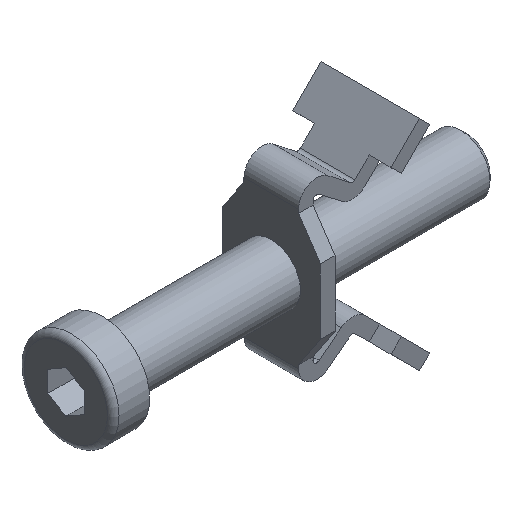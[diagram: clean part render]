
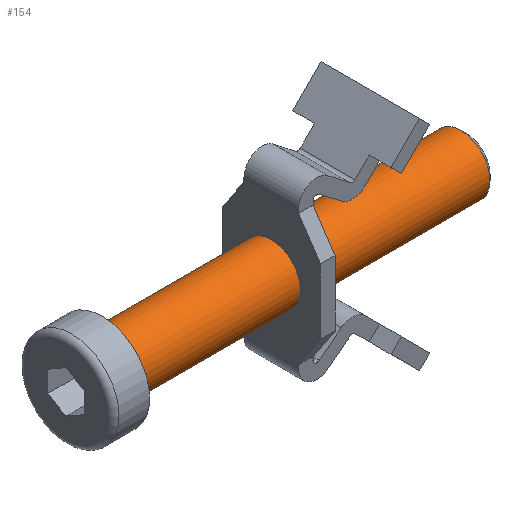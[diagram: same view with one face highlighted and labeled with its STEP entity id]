
A CAD part, isometric view. The second image highlights one B-rep face of the part: STEP entity #154.
In plain terms, the highlighted cylindrical face has radius 4 mm (diameter 8 mm), a full revolution.
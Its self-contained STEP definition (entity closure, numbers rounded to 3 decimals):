
#112=CARTESIAN_POINT('',(49.233,4.,0.));
#113=VERTEX_POINT('',#112);
#114=CARTESIAN_POINT('',(49.233,0.,0.0));
#115=DIRECTION('',(1.0,0.0,0.0));
#116=DIRECTION('',(0.0,-1.0,0.0));
#117=AXIS2_PLACEMENT_3D('',#114,#115,#116);
#118=CIRCLE('',#117,4.);
#119=EDGE_CURVE('',#113,#113,#118,.T.);
#135=CARTESIAN_POINT('',(39.0,0.,0.0));
#136=DIRECTION('',(1.0,0.,0.0));
#137=DIRECTION('',(0.0,1.0,0.0));
#138=AXIS2_PLACEMENT_3D('',#135,#136,#137);
#139=CYLINDRICAL_SURFACE('',#138,4.);
#140=CARTESIAN_POINT('',(0.,4.,0.0));
#141=VERTEX_POINT('',#140);
#142=CARTESIAN_POINT('',(0.0,0.,0.0));
#143=DIRECTION('',(1.0,0.0,0.0));
#144=DIRECTION('',(0.0,1.0,0.0));
#145=AXIS2_PLACEMENT_3D('',#142,#143,#144);
#146=CIRCLE('',#145,4.);
#147=EDGE_CURVE('',#141,#141,#146,.T.);
#148=ORIENTED_EDGE('',*,*,#147,.T.);
#149=EDGE_LOOP('',(#148));
#150=FACE_OUTER_BOUND('',#149,.T.);
#151=ORIENTED_EDGE('',*,*,#119,.F.);
#152=EDGE_LOOP('',(#151));
#153=FACE_BOUND('',#152,.T.);
#154=ADVANCED_FACE('',(#150,#153),#139,.T.);
